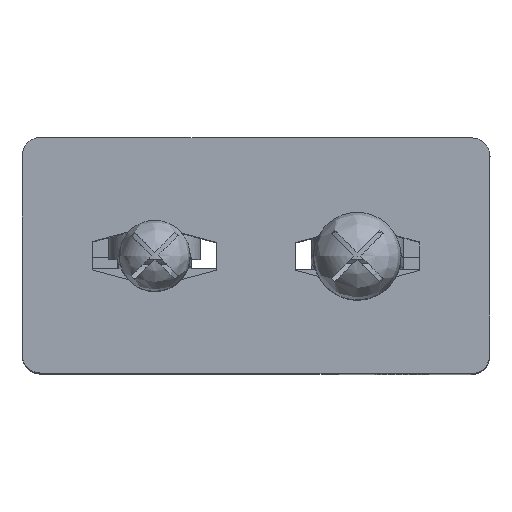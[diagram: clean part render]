
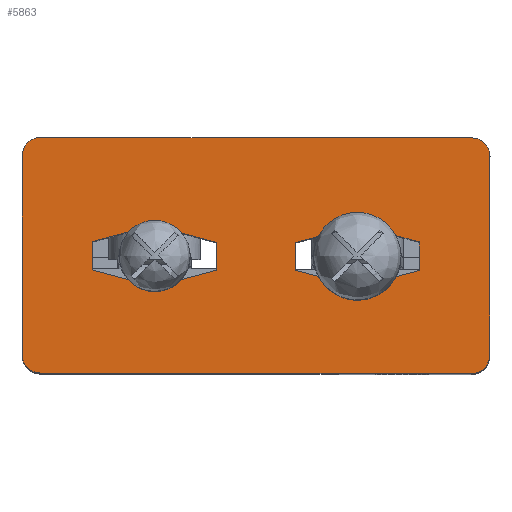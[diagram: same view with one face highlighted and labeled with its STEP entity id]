
A CAD part, top view. The second image highlights one B-rep face of the part: STEP entity #5863.
In plain terms, the highlighted planar face has unit normal (0, 0, 1).
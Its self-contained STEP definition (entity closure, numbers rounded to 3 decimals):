
#315=FACE_BOUND('',#939,.T.);
#316=FACE_BOUND('',#940,.T.);
#405=PLANE('',#6386);
#592=FACE_OUTER_BOUND('',#938,.T.);
#938=EDGE_LOOP('',(#4299,#4300,#4301,#4302,#4303,#4304,#4305,#4306));
#939=EDGE_LOOP('',(#4307,#4308,#4309,#4310,#4311,#4312,#4313,#4314));
#940=EDGE_LOOP('',(#4315,#4316,#4317,#4318,#4319,#4320,#4321,#4322));
#1297=LINE('',#8786,#1768);
#1324=LINE('',#8975,#1795);
#1391=LINE('',#9166,#1862);
#1395=LINE('',#9175,#1866);
#1399=LINE('',#9183,#1870);
#1404=LINE('',#9193,#1875);
#1406=LINE('',#9196,#1877);
#1409=LINE('',#9202,#1880);
#1410=LINE('',#9209,#1881);
#1411=LINE('',#9210,#1882);
#1412=LINE('',#9213,#1883);
#1413=LINE('',#9215,#1884);
#1414=LINE('',#9217,#1885);
#1415=LINE('',#9221,#1886);
#1416=LINE('',#9223,#1887);
#1417=LINE('',#9225,#1888);
#1768=VECTOR('',#7002,10.);
#1795=VECTOR('',#7063,10.);
#1862=VECTOR('',#7260,10.);
#1866=VECTOR('',#7266,10.);
#1870=VECTOR('',#7272,10.);
#1875=VECTOR('',#7279,10.);
#1877=VECTOR('',#7283,10.);
#1880=VECTOR('',#7288,10.);
#1881=VECTOR('',#7299,10.);
#1882=VECTOR('',#7300,10.);
#1883=VECTOR('',#7301,10.);
#1884=VECTOR('',#7302,10.);
#1885=VECTOR('',#7303,10.);
#1886=VECTOR('',#7306,10.);
#1887=VECTOR('',#7307,10.);
#1888=VECTOR('',#7308,10.);
#2191=CIRCLE('',#6286,1.);
#2193=CIRCLE('',#6291,1.);
#2201=CIRCLE('',#6315,1.);
#2230=CIRCLE('',#6385,2.375);
#2231=CIRCLE('',#6387,1.);
#2232=CIRCLE('',#6388,1.925);
#2233=CIRCLE('',#6389,1.925);
#2234=CIRCLE('',#6390,2.375);
#2499=VERTEX_POINT('',#8756);
#2500=VERTEX_POINT('',#8758);
#2503=VERTEX_POINT('',#8771);
#2504=VERTEX_POINT('',#8773);
#2538=VERTEX_POINT('',#8972);
#2539=VERTEX_POINT('',#8974);
#2540=VERTEX_POINT('',#8981);
#2596=VERTEX_POINT('',#9162);
#2598=VERTEX_POINT('',#9165);
#2600=VERTEX_POINT('',#9171);
#2602=VERTEX_POINT('',#9174);
#2605=VERTEX_POINT('',#9182);
#2607=VERTEX_POINT('',#9187);
#2609=VERTEX_POINT('',#9191);
#2611=VERTEX_POINT('',#9199);
#2612=VERTEX_POINT('',#9207);
#2613=VERTEX_POINT('',#9211);
#2614=VERTEX_POINT('',#9212);
#2615=VERTEX_POINT('',#9214);
#2616=VERTEX_POINT('',#9216);
#2617=VERTEX_POINT('',#9218);
#2618=VERTEX_POINT('',#9220);
#2619=VERTEX_POINT('',#9222);
#2620=VERTEX_POINT('',#9224);
#3089=EDGE_CURVE('',#2499,#2500,#2191,.T.);
#3097=EDGE_CURVE('',#2503,#2504,#2193,.T.);
#3104=EDGE_CURVE('',#2504,#2499,#1297,.T.);
#3145=EDGE_CURVE('',#2539,#2538,#1324,.T.);
#3149=EDGE_CURVE('',#2539,#2540,#2201,.T.);
#3240=EDGE_CURVE('',#2598,#2596,#1391,.T.);
#3244=EDGE_CURVE('',#2602,#2600,#1395,.T.);
#3248=EDGE_CURVE('',#2605,#2598,#1399,.T.);
#3253=EDGE_CURVE('',#2607,#2609,#1404,.T.);
#3255=EDGE_CURVE('',#2609,#2602,#1406,.T.);
#3258=EDGE_CURVE('',#2611,#2605,#1409,.T.);
#3260=EDGE_CURVE('',#2596,#2607,#2230,.T.);
#3261=EDGE_CURVE('',#2612,#2538,#2231,.T.);
#3262=EDGE_CURVE('',#2500,#2612,#1410,.T.);
#3263=EDGE_CURVE('',#2540,#2503,#1411,.T.);
#3264=EDGE_CURVE('',#2613,#2614,#1412,.T.);
#3265=EDGE_CURVE('',#2614,#2615,#1413,.T.);
#3266=EDGE_CURVE('',#2615,#2616,#1414,.T.);
#3267=EDGE_CURVE('',#2616,#2617,#2232,.T.);
#3268=EDGE_CURVE('',#2617,#2618,#1415,.T.);
#3269=EDGE_CURVE('',#2618,#2619,#1416,.T.);
#3270=EDGE_CURVE('',#2619,#2620,#1417,.T.);
#3271=EDGE_CURVE('',#2620,#2613,#2233,.T.);
#3272=EDGE_CURVE('',#2600,#2611,#2234,.T.);
#4299=ORIENTED_EDGE('',*,*,#3149,.F.);
#4300=ORIENTED_EDGE('',*,*,#3145,.T.);
#4301=ORIENTED_EDGE('',*,*,#3261,.F.);
#4302=ORIENTED_EDGE('',*,*,#3262,.F.);
#4303=ORIENTED_EDGE('',*,*,#3089,.F.);
#4304=ORIENTED_EDGE('',*,*,#3104,.F.);
#4305=ORIENTED_EDGE('',*,*,#3097,.F.);
#4306=ORIENTED_EDGE('',*,*,#3263,.F.);
#4307=ORIENTED_EDGE('',*,*,#3264,.T.);
#4308=ORIENTED_EDGE('',*,*,#3265,.T.);
#4309=ORIENTED_EDGE('',*,*,#3266,.T.);
#4310=ORIENTED_EDGE('',*,*,#3267,.T.);
#4311=ORIENTED_EDGE('',*,*,#3268,.T.);
#4312=ORIENTED_EDGE('',*,*,#3269,.T.);
#4313=ORIENTED_EDGE('',*,*,#3270,.T.);
#4314=ORIENTED_EDGE('',*,*,#3271,.T.);
#4315=ORIENTED_EDGE('',*,*,#3258,.T.);
#4316=ORIENTED_EDGE('',*,*,#3248,.T.);
#4317=ORIENTED_EDGE('',*,*,#3240,.T.);
#4318=ORIENTED_EDGE('',*,*,#3260,.T.);
#4319=ORIENTED_EDGE('',*,*,#3253,.T.);
#4320=ORIENTED_EDGE('',*,*,#3255,.T.);
#4321=ORIENTED_EDGE('',*,*,#3244,.T.);
#4322=ORIENTED_EDGE('',*,*,#3272,.T.);
#5863=ADVANCED_FACE('',(#592,#315,#316),#405,.T.);
#6286=AXIS2_PLACEMENT_3D('',#8759,#6971,#6972);
#6291=AXIS2_PLACEMENT_3D('',#8774,#6987,#6988);
#6315=AXIS2_PLACEMENT_3D('',#8982,#7071,#7072);
#6385=AXIS2_PLACEMENT_3D('',#9205,#7293,#7294);
#6386=AXIS2_PLACEMENT_3D('',#9206,#7295,#7296);
#6387=AXIS2_PLACEMENT_3D('',#9208,#7297,#7298);
#6388=AXIS2_PLACEMENT_3D('',#9219,#7304,#7305);
#6389=AXIS2_PLACEMENT_3D('',#9226,#7309,#7310);
#6390=AXIS2_PLACEMENT_3D('',#9227,#7311,#7312);
#6971=DIRECTION('center_axis',(0.,0.,-1.));
#6972=DIRECTION('ref_axis',(-0.707,0.707,0.));
#6987=DIRECTION('center_axis',(0.,0.,-1.));
#6988=DIRECTION('ref_axis',(-0.707,-0.707,0.));
#7002=DIRECTION('',(0.,1.,0.));
#7063=DIRECTION('',(0.,1.,0.));
#7071=DIRECTION('center_axis',(0.,0.,-1.));
#7072=DIRECTION('ref_axis',(0.707,-0.707,0.));
#7260=DIRECTION('',(0.966,0.259,0.));
#7266=DIRECTION('',(-0.966,-0.259,0.));
#7272=DIRECTION('',(0.,1.,0.));
#7279=DIRECTION('',(0.966,-0.259,0.));
#7283=DIRECTION('',(0.,-1.,0.));
#7288=DIRECTION('',(-0.966,0.259,0.));
#7293=DIRECTION('center_axis',(0.,0.,-1.));
#7294=DIRECTION('ref_axis',(1.,0.,0.));
#7295=DIRECTION('center_axis',(0.,0.,1.));
#7296=DIRECTION('ref_axis',(1.,0.,0.));
#7297=DIRECTION('center_axis',(0.,0.,-1.));
#7298=DIRECTION('ref_axis',(0.707,0.707,0.));
#7299=DIRECTION('',(1.,0.,0.));
#7300=DIRECTION('',(-1.,0.,0.));
#7301=DIRECTION('',(-0.966,0.259,0.));
#7302=DIRECTION('',(0.,1.,0.));
#7303=DIRECTION('',(0.966,0.259,0.));
#7304=DIRECTION('center_axis',(0.,0.,-1.));
#7305=DIRECTION('ref_axis',(1.,0.,0.));
#7306=DIRECTION('',(0.966,-0.259,0.));
#7307=DIRECTION('',(0.,-1.,0.));
#7308=DIRECTION('',(-0.966,-0.259,0.));
#7309=DIRECTION('center_axis',(0.,0.,-1.));
#7310=DIRECTION('ref_axis',(1.,0.,0.));
#7311=DIRECTION('center_axis',(0.,0.,-1.));
#7312=DIRECTION('ref_axis',(1.,0.,0.));
#8756=CARTESIAN_POINT('',(-12.7,5.4,17.5));
#8758=CARTESIAN_POINT('',(-11.7,6.4,17.5));
#8759=CARTESIAN_POINT('Origin',(-11.7,5.4,17.5));
#8771=CARTESIAN_POINT('',(-11.7,-6.4,17.5));
#8773=CARTESIAN_POINT('',(-12.7,-5.4,17.5));
#8774=CARTESIAN_POINT('Origin',(-11.7,-5.4,17.5));
#8786=CARTESIAN_POINT('',(-12.7,0.,17.5));
#8972=CARTESIAN_POINT('',(12.7,5.4,17.5));
#8974=CARTESIAN_POINT('',(12.7,-5.4,17.5));
#8975=CARTESIAN_POINT('',(12.7,0.,17.5));
#8981=CARTESIAN_POINT('',(11.7,-6.4,17.5));
#8982=CARTESIAN_POINT('Origin',(11.7,-5.4,17.5));
#9162=CARTESIAN_POINT('',(3.389,1.039,17.5));
#9165=CARTESIAN_POINT('',(2.125,0.7,17.5));
#9166=CARTESIAN_POINT('',(-3.916,-0.919,17.5));
#9171=CARTESIAN_POINT('',(7.611,-1.139,17.5));
#9174=CARTESIAN_POINT('',(8.875,-0.8,17.5));
#9175=CARTESIAN_POINT('',(-2.052,-3.728,17.5));
#9182=CARTESIAN_POINT('',(2.125,-0.8,17.5));
#9183=CARTESIAN_POINT('',(2.125,0.35,17.5));
#9187=CARTESIAN_POINT('',(7.584,1.09,17.5));
#9191=CARTESIAN_POINT('',(8.875,0.744,17.5));
#9193=CARTESIAN_POINT('',(-1.097,3.416,17.5));
#9196=CARTESIAN_POINT('',(8.875,-0.4,17.5));
#9199=CARTESIAN_POINT('',(3.389,-1.139,17.5));
#9202=CARTESIAN_POINT('',(-4.891,1.08,17.5));
#9205=CARTESIAN_POINT('Origin',(5.5,-0.05,17.5));
#9206=CARTESIAN_POINT('Origin',(-12.7,0.,17.5));
#9207=CARTESIAN_POINT('',(11.7,6.4,17.5));
#9208=CARTESIAN_POINT('Origin',(11.7,5.4,17.5));
#9209=CARTESIAN_POINT('',(-12.7,6.4,17.5));
#9210=CARTESIAN_POINT('',(-12.7,-6.4,17.5));
#9211=CARTESIAN_POINT('',(-6.95,-1.316,17.5));
#9212=CARTESIAN_POINT('',(-8.875,-0.8,17.5));
#9213=CARTESIAN_POINT('',(-9.797,-0.553,17.5));
#9214=CARTESIAN_POINT('',(-8.875,0.744,17.5));
#9215=CARTESIAN_POINT('',(-8.875,-0.4,17.5));
#9216=CARTESIAN_POINT('',(-6.898,1.274,17.5));
#9217=CARTESIAN_POINT('',(-10.752,0.241,17.5));
#9218=CARTESIAN_POINT('',(-4.05,1.216,17.5));
#9219=CARTESIAN_POINT('Origin',(-5.5,-0.05,17.5));
#9220=CARTESIAN_POINT('',(-2.125,0.7,17.5));
#9221=CARTESIAN_POINT('',(-7.933,2.256,17.5));
#9222=CARTESIAN_POINT('',(-2.125,-0.8,17.5));
#9223=CARTESIAN_POINT('',(-2.125,0.35,17.5));
#9224=CARTESIAN_POINT('',(-4.05,-1.316,17.5));
#9225=CARTESIAN_POINT('',(-6.958,-2.095,17.5));
#9226=CARTESIAN_POINT('Origin',(-5.5,-0.05,17.5));
#9227=CARTESIAN_POINT('Origin',(5.5,-0.05,17.5));
